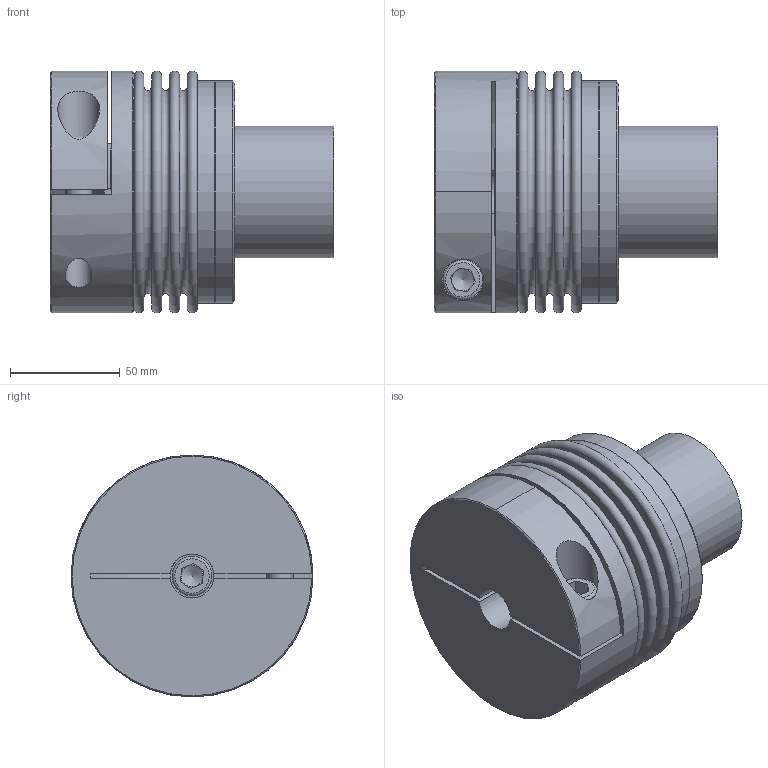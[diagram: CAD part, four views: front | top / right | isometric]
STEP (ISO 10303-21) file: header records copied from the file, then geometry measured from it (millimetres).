
FILE_DESCRIPTION( ( 'Unknown' ), '1' );
FILE_NAME( 'K:/Konstruktion/KB8/HP/KB8-300-84.stp', 'Unknown', ( 'Unknown' ), ( 'Unknown' ), 'PSStep 16.0.42', 'Unknown', ' ' );
FILE_SCHEMA( ( 'AUTOMOTIVE_DESIGN { 1 0 10303 214 1 1 1 1 }' ) );
Length unit declared in the file: millimetre
Products named in the file (6): Assem1; BK300_Standard_0; KN300_Standard_1; Socket Head Cap Screw_DIN_DIN 912 M12 x 35 --- 35N_2; Spreiznabe300; Socket Head Cap Screw_DIN_DIN 912 M12 x 40 --- 40N
Assembly tree (5 placements, depth 2):
  Assem1
    BK300_Standard_0
    KN300_Standard_1
    Socket Head Cap Screw_DIN_DIN 912 M12 x 35 --- 35N_2
    Spreiznabe300
    Socket Head Cap Screw_DIN_DIN 912 M12 x 40 --- 40N
Bounding box: 129 x 110 x 110 mm (x, y, z)
Volume: 613747.7 mm3; surface area: 146286.6 mm2
Topology: 5 solids, 5 shells, 112 faces, 225 edges, 144 vertices
Faces by surface type: plane 64, cylinder 23, torus 18, cone 7
Full cylindrical faces by diameter (mm): 12 x3, 12.5 x1, 13 x1, 18 x2, 19 x1, 20 x2, 60 x1, 99.6 x1, 99.8 x2, 101 x3, 110 x1
Entity records: 3790 total; most frequent: CARTESIAN_POINT 612, DIRECTION 492, ORIENTED_EDGE 338, AXIS2_PLACEMENT_3D 212, EDGE_LOOP 183, EDGE_CURVE 169, FACE_OUTER_BOUND 146, VERTEX_POINT 142
